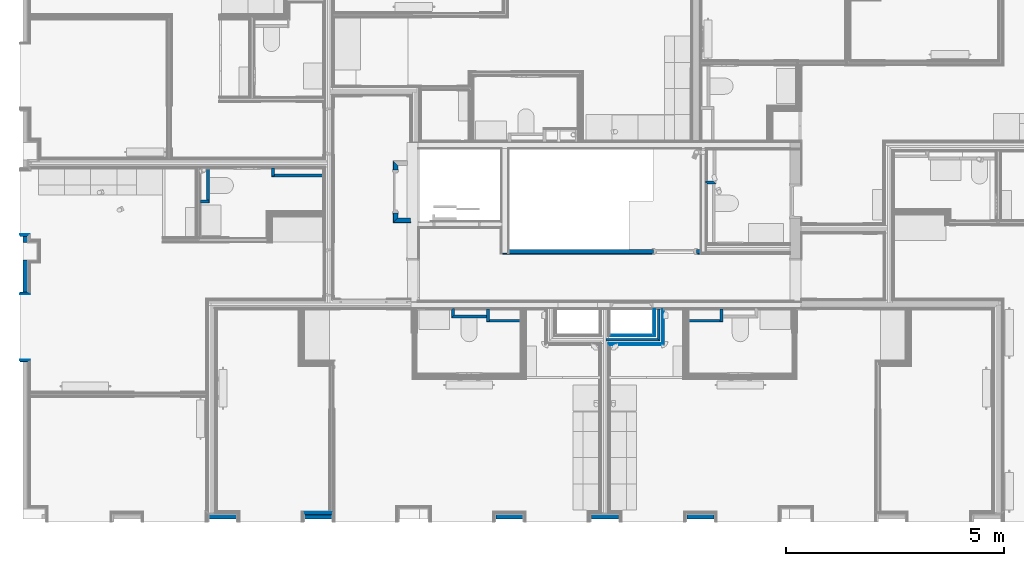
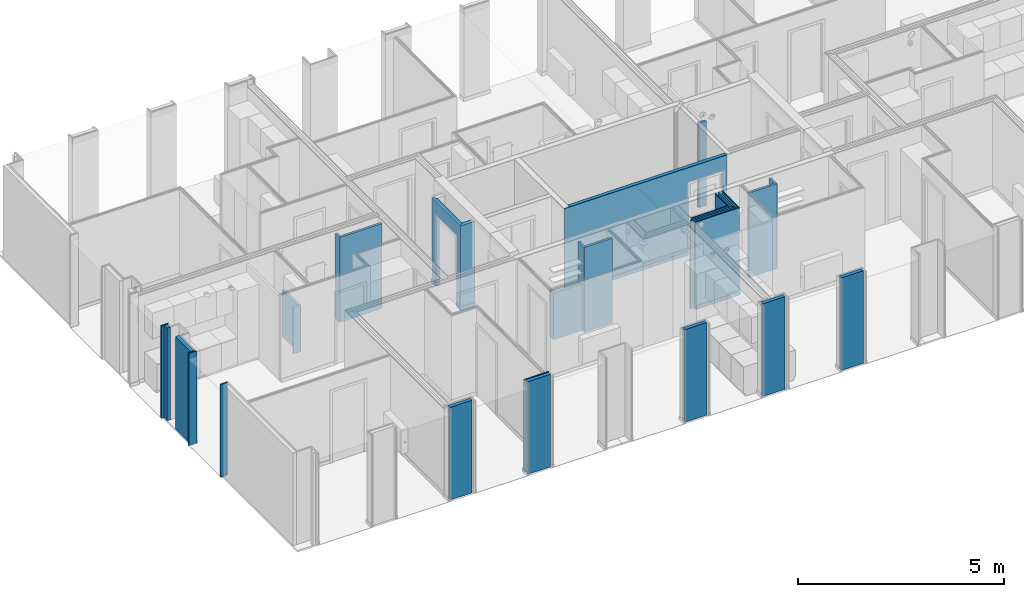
# One storey, part 3 of 82: 40 walls, 2 openings.
"""IFC2X3 building model written with IfcOpenShell, lengths in metres."""

import ifcopenshell
import ifcopenshell.guid

model = None  # the IFC model being written
_history = None  # IfcOwnerHistory: only IFC2X3 demands one
_inside = {}  # id of a spatial element -> (the spatial element, [elements in it])
_under = {}  # id of a project, library or spatial element -> (it, [spatial elements below it])
_declared = {}  # id of a project -> (the project, [libraries it declares])
_typed = {}  # id of a type object -> (the type object, [elements of that type])
_made_of = {}  # id of a material, layer set ... -> (it, [elements and type objects made of it])


def new_model(schema):
    """Start an empty IFC model of exactly this schema.

    Asked for "IFC4X3", IfcOpenShell would pick the latest addendum, in which some entities
    have other attributes; the version numbers below select the first issue.
    IFC2X3 requires an IfcOwnerHistory on every rooted entity: one is made here for all.
    """
    global model, _history
    if schema == "IFC4X3":
        model = ifcopenshell.file(schema_version=(4, 3, 0, 0))
    else:
        model = ifcopenshell.file(schema=schema)
    _inside.clear()
    _under.clear()
    _declared.clear()
    _typed.clear()
    _made_of.clear()
    _history = None
    if model.schema == "IFC2X3":
        org = make("IfcOrganization", Name="unknown")
        user = make(
            "IfcPersonAndOrganization",
            ThePerson=make("IfcPerson", FamilyName="unknown"),
            TheOrganization=org,
        )
        app = make(
            "IfcApplication",
            ApplicationDeveloper=org,
            Version="unknown",
            ApplicationFullName="unknown",
            ApplicationIdentifier="unknown",
        )
        _history = make(
            "IfcOwnerHistory",
            OwningUser=user,
            OwningApplication=app,
            ChangeAction="ADDED",
            CreationDate=0,
        )
    return model


def make(cls, **values):
    """One entity of the class cls with the attributes given. An attribute that is None is left unset."""
    return model.create_entity(
        cls, **{name: value for name, value in values.items() if value is not None}
    )


def entity(cls, *values):
    """Any entity or typed value of the class cls, its attributes in the order of the schema. None: left unset."""
    e = model.create_entity(cls)
    for i, value in enumerate(values):
        if value is not None:
            e[i] = value
    return e


def rooted(cls, **values):
    """An entity with a GlobalId (a new one), such as an element, a storey or a relation."""
    return make(cls, GlobalId=ifcopenshell.guid.new(), OwnerHistory=_history, **values)


def si_unit(unit_type, name, prefix=None):
    """IfcSIUnit, for example si_unit("LENGTHUNIT", "METRE", prefix="MILLI")."""
    return make("IfcSIUnit", UnitType=unit_type, Prefix=prefix, Name=name)


def converted_unit(unit_type, name, factor, base, dimensions=None, offset=None):
    """IfcConversionBasedUnit, such as the inch: factor (a typed value) times the base unit."""
    return make(
        "IfcConversionBasedUnit"
        if offset is None
        else "IfcConversionBasedUnitWithOffset",
        ConversionOffset=offset,
        Dimensions=None
        if dimensions is None
        else entity("IfcDimensionalExponents", *dimensions),
        UnitType=unit_type,
        Name=name,
        ConversionFactor=make(
            "IfcMeasureWithUnit", ValueComponent=factor, UnitComponent=base
        ),
    )


def derived_unit(unit_type, elements):
    """IfcDerivedUnit: a product of units, each with its exponent."""
    return make(
        "IfcDerivedUnit",
        Elements=[
            make("IfcDerivedUnitElement", Unit=unit, Exponent=power)
            for unit, power in elements
        ],
        UnitType=unit_type,
    )


def money_unit(currency):
    """IfcMonetaryUnit."""
    return make("IfcMonetaryUnit", Currency=currency)


def assignment(units):
    """IfcUnitAssignment: the units of a project."""
    return None if units is None else make("IfcUnitAssignment", Units=units)


def point(xyz):
    """IfcCartesianPoint."""
    return None if xyz is None else make("IfcCartesianPoint", Coordinates=xyz)


def direction(xyz):
    """IfcDirection."""
    return None if xyz is None else make("IfcDirection", DirectionRatios=xyz)


def frame(location, z_axis=None, x_axis=None):
    """IfcAxis2Placement3D, a coordinate frame: its origin and axes. An axis left out is left unset."""
    return make(
        "IfcAxis2Placement3D",
        Location=point(location),
        Axis=direction(z_axis),
        RefDirection=direction(x_axis),
    )


def frame_2d(location, x_axis=None):
    """IfcAxis2Placement2D, a coordinate frame in the plane: its origin and x axis."""
    return make(
        "IfcAxis2Placement2D", Location=point(location), RefDirection=direction(x_axis)
    )


def origin_with_axes():
    """The frame at (0, 0, 0) with the z axis (0, 0, 1) and the x axis (1, 0, 0) written out."""
    return frame((0.0, 0.0, 0.0), z_axis=(0.0, 0.0, 1.0), x_axis=(1.0, 0.0, 0.0))


def place(relative_to, where):
    """IfcLocalPlacement: puts the frame where relative to a parent placement (None: the world)."""
    return make(
        "IfcLocalPlacement", PlacementRelTo=relative_to, RelativePlacement=where
    )


def context(
    kind, dimensions, precision=None, world=None, true_north=None, identifier=None
):
    """IfcGeometricRepresentationContext, for example the 3D "Model" context."""
    return make(
        "IfcGeometricRepresentationContext",
        ContextIdentifier=identifier,
        ContextType=kind,
        CoordinateSpaceDimension=dimensions,
        Precision=precision,
        WorldCoordinateSystem=world,
        TrueNorth=true_north,
    )


def subcontext(parent, identifier, kind, view, scale=None):
    """IfcGeometricRepresentationSubContext, for example "Body" below "Model"."""
    return make(
        "IfcGeometricRepresentationSubContext",
        ContextIdentifier=identifier,
        ContextType=kind,
        ParentContext=parent,
        TargetScale=scale,
        TargetView=view,
    )


def project(units=None, contexts=None):
    """IfcProject with its units and contexts."""
    return rooted(
        "IfcProject",
        Name="project",
        RepresentationContexts=contexts,
        UnitsInContext=assignment(units),
    )


def spatial(cls, under=None, at=None, **own):
    """A site, building, storey or space (cls), placed at a placement, below another one or the project."""
    s = rooted(cls, ObjectPlacement=at, **own)
    if under is not None:
        _under.setdefault(under.id(), (under, []))[1].append(s)
    return s


def polyline(points):
    """IfcPolyline through the points."""
    return make("IfcPolyline", Points=[point(p) for p in points])


def profile(cls, at=None, kind="AREA", **sizes):
    """A parametric profile (cls). Its sizes go by their IFC names, for example OverallWidth=200.0."""
    return make(cls, ProfileType=kind, Position=at, **sizes)


def rectangle(**sizes):
    """IfcRectangleProfileDef."""
    return profile("IfcRectangleProfileDef", **sizes)


def outline(outer, holes=None, kind="AREA"):
    """IfcArbitraryClosedProfileDef: a profile drawn as a closed curve; with holes, ...WithVoids."""
    if holes is None:
        return make("IfcArbitraryClosedProfileDef", ProfileType=kind, OuterCurve=outer)
    return make(
        "IfcArbitraryProfileDefWithVoids",
        ProfileType=kind,
        OuterCurve=outer,
        InnerCurves=holes,
    )


def extrude(swept, where, along, depth):
    """IfcExtrudedAreaSolid: the profile swept, set in the frame where, extruded along a direction by depth."""
    return make(
        "IfcExtrudedAreaSolid",
        SweptArea=swept,
        Position=where,
        ExtrudedDirection=direction(along),
        Depth=depth,
    )


def clip(a, b, op="DIFFERENCE"):
    """IfcBooleanClippingResult: the solid a cut by the half space b."""
    return make(
        "IfcBooleanClippingResult", Operator=op, FirstOperand=a, SecondOperand=b
    )


def bounded_halfspace(plane, agree, where, boundary):
    """IfcPolygonalBoundedHalfSpace: a half space limited to a polygon's prism."""
    return make(
        "IfcPolygonalBoundedHalfSpace",
        BaseSurface=make("IfcPlane", Position=plane),
        AgreementFlag=agree,
        Position=where,
        PolygonalBoundary=boundary,
    )


def shape(context_of_items, identifier, shape_type, items):
    """IfcShapeRepresentation: the items that make up one representation, for example the "Body"."""
    return make(
        "IfcShapeRepresentation",
        ContextOfItems=context_of_items,
        RepresentationIdentifier=identifier,
        RepresentationType=shape_type,
        Items=items,
    )


def material(Name=None, Category=None):
    """IfcMaterial."""
    return make("IfcMaterial", Name=Name, Category=Category)


def layer(
    of_material, thickness, ventilated=None, Name=None, Category=None, Priority=None
):
    """IfcMaterialLayer: one layer of a wall or slab, of a material (None: an air gap)."""
    return make(
        "IfcMaterialLayer",
        Material=of_material,
        LayerThickness=thickness,
        IsVentilated=ventilated,
        Name=Name,
        Category=Category,
        Priority=Priority,
    )


def layer_set(layers, Name=None):
    """IfcMaterialLayerSet."""
    return make("IfcMaterialLayerSet", MaterialLayers=layers, LayerSetName=Name)


def layer_usage(for_layer_set, set_direction, sense, offset, extent=None):
    """IfcMaterialLayerSetUsage: how a layer set lies in its element."""
    return make(
        "IfcMaterialLayerSetUsage",
        ForLayerSet=for_layer_set,
        LayerSetDirection=set_direction,
        DirectionSense=sense,
        OffsetFromReferenceLine=offset,
        ReferenceExtent=extent,
    )


def made_of(thing, what):
    """Note that an element or type object is made of a material, layer set ...; save() writes the relation."""
    if what is not None:
        _made_of.setdefault(what.id(), (what, []))[1].append(thing)
    return thing


def type_object(cls, material=None, **own):
    """A type object (cls), such as IfcWallType, which elements share."""
    return made_of(rooted(cls, **own), material)


def element(
    cls,
    number,
    at=None,
    inside=None,
    cuts=None,
    type_object=None,
    material=None,
    context=None,
    identifier="Body",
    shape_type=None,
    held_by="IfcProductDefinitionShape",
    body=None,
    shapes=None,
    **own,
):
    """One element of the class cls, such as IfcWall. Its Tag is "e" and its number.

    at: its placement. inside: the storey or other place that contains it. cuts: it is an
    opening in that element (IfcRelVoidsElement). A single representation is given by context,
    identifier, shape_type and body (its items); several are given by shapes. held_by: the class
    of the entity that holds the representations. save() writes the other relations.
    """
    e = rooted(cls, Tag="e%d" % number, ObjectPlacement=at, **own)
    if body is not None:
        shapes = [shape(context, identifier, shape_type, body)]
    if shapes is not None:
        e.Representation = make(held_by, Representations=shapes)
    if inside is not None:
        _inside.setdefault(inside.id(), (inside, []))[1].append(e)
    if cuts is not None:
        rooted(
            "IfcRelVoidsElement", RelatingBuildingElement=cuts, RelatedOpeningElement=e
        )
    if type_object is not None:
        _typed.setdefault(type_object.id(), (type_object, []))[1].append(e)
    return made_of(e, material)


def aggregate(whole, parts):
    """IfcRelAggregates: a whole, such as a stair, and the parts it consists of."""
    return rooted("IfcRelAggregates", RelatingObject=whole, RelatedObjects=parts)


def save(model, path):
    """Write the relations noted so far, then the file.

    IfcRelAggregates (storeys below a building ...), IfcRelContainedInSpatialStructure (elements
    in a storey), IfcRelDefinesByType, IfcRelAssociatesMaterial and IfcRelDeclares: one each for
    every whole, place, type object, material and project.
    """
    for whole, parts in _under.values():
        aggregate(whole, parts)
    for where, things in _inside.values():
        rooted(
            "IfcRelContainedInSpatialStructure",
            RelatedElements=things,
            RelatingStructure=where,
        )
    for kind, things in _typed.values():
        rooted("IfcRelDefinesByType", RelatedObjects=things, RelatingType=kind)
    for what, things in _made_of.values():
        rooted("IfcRelAssociatesMaterial", RelatedObjects=things, RelatingMaterial=what)
    for by, libraries in _declared.values():
        rooted("IfcRelDeclares", RelatingContext=by, RelatedDefinitions=libraries)
    model.write(path)


model = new_model("IFC2X3")

# Units and contexts
model_context = context("Model", 3, precision=1e-05, world=origin_with_axes(), true_north=direction((0.0, 1.0)))
body_context = subcontext(model_context, "Body", "Model", "MODEL_VIEW", scale=1.0)
ifc_project = project(units=[si_unit("LENGTHUNIT", "METRE"), si_unit("AREAUNIT", "SQUARE_METRE"), si_unit("VOLUMEUNIT", "CUBIC_METRE"), si_unit("ABSORBEDDOSEUNIT", "GRAY"), si_unit("AMOUNTOFSUBSTANCEUNIT", "MOLE"), si_unit("DOSEEQUIVALENTUNIT", "SIEVERT"), si_unit("ELECTRICCAPACITANCEUNIT", "FARAD"), si_unit("ELECTRICCHARGEUNIT", "COULOMB"), si_unit("ELECTRICCONDUCTANCEUNIT", "SIEMENS"), si_unit("ELECTRICCURRENTUNIT", "AMPERE"), si_unit("ELECTRICRESISTANCEUNIT", "OHM"), si_unit("ELECTRICVOLTAGEUNIT", "VOLT"), si_unit("ENERGYUNIT", "JOULE"), si_unit("FORCEUNIT", "NEWTON"), si_unit("FREQUENCYUNIT", "HERTZ"), si_unit("ILLUMINANCEUNIT", "LUX"), si_unit("INDUCTANCEUNIT", "HENRY"), si_unit("LUMINOUSFLUXUNIT", "LUMEN"), si_unit("LUMINOUSINTENSITYUNIT", "CANDELA"), si_unit("MAGNETICFLUXDENSITYUNIT", "TESLA"), si_unit("MAGNETICFLUXUNIT", "WEBER"), si_unit("MASSUNIT", "GRAM"), converted_unit("PLANEANGLEUNIT", "degree", entity("IfcReal", 0.0174532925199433), si_unit("PLANEANGLEUNIT", "RADIAN"), dimensions=[0, 0, 0, 0, 0, 0, 0]), si_unit("POWERUNIT", "WATT"), si_unit("PRESSUREUNIT", "PASCAL"), si_unit("RADIOACTIVITYUNIT", "BECQUEREL"), si_unit("SOLIDANGLEUNIT", "STERADIAN"), si_unit("THERMODYNAMICTEMPERATUREUNIT", "KELVIN"), si_unit("TIMEUNIT", "SECOND"), derived_unit("ACCELERATIONUNIT", [(si_unit("LENGTHUNIT", "METRE"), 1), (si_unit("TIMEUNIT", "SECOND"), -2)]), derived_unit("ANGULARVELOCITYUNIT", [(converted_unit("PLANEANGLEUNIT", "degree", entity("IfcReal", 0.0174532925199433), si_unit("PLANEANGLEUNIT", "RADIAN"), dimensions=[0, 0, 0, 0, 0, 0, 0]), 1), (si_unit("TIMEUNIT", "SECOND"), -1)]), derived_unit("CURVATUREUNIT", [(converted_unit("PLANEANGLEUNIT", "degree", entity("IfcReal", 0.0174532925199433), si_unit("PLANEANGLEUNIT", "RADIAN"), dimensions=[0, 0, 0, 0, 0, 0, 0]), 1), (si_unit("LENGTHUNIT", "METRE"), -1)]), derived_unit("DYNAMICVISCOSITYUNIT", [(si_unit("PRESSUREUNIT", "PASCAL"), 1), (si_unit("TIMEUNIT", "SECOND"), 1)]), derived_unit("HEATFLUXDENSITYUNIT", [(si_unit("POWERUNIT", "WATT"), 1), (si_unit("LENGTHUNIT", "METRE"), -2)]), derived_unit("HEATINGVALUEUNIT", [(si_unit("ENERGYUNIT", "JOULE"), 1), (si_unit("MASSUNIT", "GRAM"), -1)]), derived_unit("INTEGERCOUNTRATEUNIT", [(si_unit("TIMEUNIT", "SECOND"), -1)]), derived_unit("IONCONCENTRATIONUNIT", [(si_unit("MASSUNIT", "GRAM"), 1), (si_unit("VOLUMEUNIT", "CUBIC_METRE"), -1)]), derived_unit("ISOTHERMALMOISTURECAPACITYUNIT", [(si_unit("VOLUMEUNIT", "CUBIC_METRE"), 1), (si_unit("MASSUNIT", "GRAM"), -1)]), derived_unit("KINEMATICVISCOSITYUNIT", [(si_unit("AREAUNIT", "SQUARE_METRE"), 1), (si_unit("TIMEUNIT", "SECOND"), -1)]), derived_unit("LINEARFORCEUNIT", [(si_unit("FORCEUNIT", "NEWTON"), 1), (si_unit("LENGTHUNIT", "METRE"), -1)]), derived_unit("LINEARMOMENTUNIT", [(si_unit("FORCEUNIT", "NEWTON"), 1), (si_unit("LENGTHUNIT", "METRE"), -1)]), derived_unit("LINEARSTIFFNESSUNIT", [(si_unit("FORCEUNIT", "NEWTON"), 1), (si_unit("LENGTHUNIT", "METRE"), -1)]), derived_unit("LINEARVELOCITYUNIT", [(si_unit("LENGTHUNIT", "METRE"), 1), (si_unit("TIMEUNIT", "SECOND"), -1)]), derived_unit("LUMINOUSINTENSITYDISTRIBUTIONUNIT", [(si_unit("LUMINOUSINTENSITYUNIT", "CANDELA"), 1), (si_unit("LUMINOUSFLUXUNIT", "LUMEN"), -1)]), derived_unit("MASSDENSITYUNIT", [(si_unit("MASSUNIT", "GRAM"), 1), (si_unit("VOLUMEUNIT", "CUBIC_METRE"), -1)]), derived_unit("MASSFLOWRATEUNIT", [(si_unit("MASSUNIT", "GRAM"), 1), (si_unit("TIMEUNIT", "SECOND"), -1)]), derived_unit("MASSPERLENGTHUNIT", [(si_unit("MASSUNIT", "GRAM"), 1), (si_unit("LENGTHUNIT", "METRE"), -1)]), derived_unit("MODULUSOFELASTICITYUNIT", [(si_unit("FORCEUNIT", "NEWTON"), 1), (si_unit("AREAUNIT", "SQUARE_METRE"), -1)]), derived_unit("MODULUSOFLINEARSUBGRADEREACTIONUNIT", [(si_unit("FORCEUNIT", "NEWTON"), 1), (si_unit("LENGTHUNIT", "METRE"), -2)]), derived_unit("MODULUSOFROTATIONALSUBGRADEREACTIONUNIT", [(si_unit("FORCEUNIT", "NEWTON"), 1), (si_unit("LENGTHUNIT", "METRE"), 1)]), derived_unit("MODULUSOFSUBGRADEREACTIONUNIT", [(si_unit("FORCEUNIT", "NEWTON"), 1), (si_unit("VOLUMEUNIT", "CUBIC_METRE"), -1)]), derived_unit("MOISTUREDIFFUSIVITYUNIT", [(si_unit("VOLUMEUNIT", "CUBIC_METRE"), 1), (si_unit("TIMEUNIT", "SECOND"), -1)]), derived_unit("MOLECULARWEIGHTUNIT", [(si_unit("MASSUNIT", "GRAM"), 1), (si_unit("AMOUNTOFSUBSTANCEUNIT", "MOLE"), -1)]), derived_unit("PLANARFORCEUNIT", [(si_unit("FORCEUNIT", "NEWTON"), 1), (si_unit("LENGTHUNIT", "METRE"), -2)]), derived_unit("ROTATIONALFREQUENCYUNIT", [(si_unit("TIMEUNIT", "SECOND"), -1)]), derived_unit("ROTATIONALMASSUNIT", [(si_unit("MASSUNIT", "GRAM"), 1), (si_unit("LENGTHUNIT", "METRE"), 2)]), derived_unit("ROTATIONALSTIFFNESSUNIT", [(si_unit("FORCEUNIT", "NEWTON"), 1), (si_unit("LENGTHUNIT", "METRE"), 1), (converted_unit("PLANEANGLEUNIT", "degree", entity("IfcReal", 0.0174532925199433), si_unit("PLANEANGLEUNIT", "RADIAN"), dimensions=[0, 0, 0, 0, 0, 0, 0]), -1)]), derived_unit("SECTIONAREAINTEGRALUNIT", [(si_unit("LENGTHUNIT", "METRE"), 5)]), derived_unit("SECTIONMODULUSUNIT", [(si_unit("LENGTHUNIT", "METRE"), 3)]), derived_unit("SHEARMODULUSUNIT", [(si_unit("FORCEUNIT", "NEWTON"), 1), (si_unit("AREAUNIT", "SQUARE_METRE"), -1)]), derived_unit("SOUNDPOWERUNIT", [(si_unit("ENERGYUNIT", "JOULE"), 1), (si_unit("TIMEUNIT", "SECOND"), -1)]), derived_unit("SPECIFICHEATCAPACITYUNIT", [(si_unit("FORCEUNIT", "NEWTON"), 1), (si_unit("MASSUNIT", "GRAM"), -1), (si_unit("THERMODYNAMICTEMPERATUREUNIT", "KELVIN"), -1)]), derived_unit("TEMPERATUREGRADIENTUNIT", [(si_unit("THERMODYNAMICTEMPERATUREUNIT", "KELVIN"), 1), (si_unit("LENGTHUNIT", "METRE"), -1)]), derived_unit("THERMALADMITTANCEUNIT", [(si_unit("POWERUNIT", "WATT"), 1), (si_unit("AREAUNIT", "SQUARE_METRE"), -1), (si_unit("THERMODYNAMICTEMPERATUREUNIT", "KELVIN"), -1)]), derived_unit("THERMALCONDUCTANCEUNIT", [(si_unit("POWERUNIT", "WATT"), 1), (si_unit("LENGTHUNIT", "METRE"), -1), (si_unit("THERMODYNAMICTEMPERATUREUNIT", "KELVIN"), -1)]), derived_unit("THERMALEXPANSIONCOEFFICIENTUNIT", [(si_unit("THERMODYNAMICTEMPERATUREUNIT", "KELVIN"), -1)]), derived_unit("THERMALRESISTANCEUNIT", [(si_unit("AREAUNIT", "SQUARE_METRE"), 1), (si_unit("POWERUNIT", "WATT"), -1)]), derived_unit("THERMALTRANSMITTANCEUNIT", [(si_unit("POWERUNIT", "WATT"), 1), (si_unit("AREAUNIT", "SQUARE_METRE"), -1), (si_unit("THERMODYNAMICTEMPERATUREUNIT", "KELVIN"), -1)]), derived_unit("TORQUEUNIT", [(si_unit("FORCEUNIT", "NEWTON"), 1), (si_unit("LENGTHUNIT", "METRE"), 1)]), derived_unit("VAPORPERMEABILITYUNIT", [(si_unit("MASSUNIT", "GRAM"), 1), (si_unit("TIMEUNIT", "SECOND"), -1)]), derived_unit("VOLUMETRICFLOWRATEUNIT", [(si_unit("VOLUMEUNIT", "CUBIC_METRE"), 1), (si_unit("TIMEUNIT", "SECOND"), -1)]), derived_unit("WARPINGCONSTANTUNIT", [(si_unit("LENGTHUNIT", "METRE"), 6)]), derived_unit("WARPINGMOMENTUNIT", [(si_unit("FORCEUNIT", "NEWTON"), 1), (si_unit("LENGTHUNIT", "METRE"), 2)]), money_unit("GBP")], contexts=[model_context])

# Site, building, storey
site_placement = place(None, origin_with_axes())
site = spatial("IfcSite", under=ifc_project, at=site_placement, Name="Site", CompositionType="ELEMENT")
building_placement = place(site_placement, origin_with_axes())
building = spatial("IfcBuilding", under=site, at=building_placement, Name="Building01", CompositionType="ELEMENT")
storey_placement = place(building_placement, frame((0.0, 0.0, 12.13), z_axis=(0.0, 0.0, 1.0), x_axis=(1.0, 0.0, 0.0)))
storey = spatial("IfcBuildingStorey", under=building, at=storey_placement, Name="3F", CompositionType="ELEMENT", Elevation=12.13)

# Walls
ifc_material_1 = material(Name="A_BSUK_WallsExternal_Block")
ifc_layer_1 = layer(ifc_material_1, 0.1, ventilated=False)
ifc_layer_set_1 = layer_set([ifc_layer_1])
ifc_layer_usage_1 = layer_usage(ifc_layer_set_1, "AXIS2", "POSITIVE", 0.0)
wall_type_1 = type_object("IfcWallType", Name="A-Walls-ExternalBlock", PredefinedType="NOTDEFINED")
wall_1_placement = place(storey_placement, frame((0.17, 6.64418, 0.0), z_axis=(0.0, 0.0, 1.0), x_axis=(0.0, -1.0, 0.0)))
element("IfcWallStandardCase", 1, at=wall_1_placement, inside=storey, type_object=wall_type_1, material=ifc_layer_usage_1, Name="A-Walls-ExternalBlock", ObjectType="A-Walls-ExternalBlock", context=body_context, shape_type="SweptSolid", body=[
    extrude(rectangle(XDim=0.14418, YDim=0.1, at=frame_2d((0.07209, 0.05), x_axis=(1.0, 0.0))), origin_with_axes(), (0.0, 0.0, 1.0), 2.74),
])
wall_2_placement = place(storey_placement, frame((0.17, 6.1, 0.0), z_axis=(0.0, 0.0, 1.0), x_axis=(0.0, -1.0, 0.0)))
element("IfcWallStandardCase", 2, at=wall_2_placement, inside=storey, type_object=wall_type_1, material=ifc_layer_usage_1, Name="A-Walls-ExternalBlock", ObjectType="A-Walls-ExternalBlock", context=body_context, shape_type="SweptSolid", body=[
    extrude(rectangle(XDim=0.737, YDim=0.1, at=frame_2d((0.3685, 0.05), x_axis=(1.0, 0.0))), origin_with_axes(), (0.0, 0.0, 1.0), 2.74),
])
for number, where, z_axis, x_axis, name in (
    (3, (5.057, 0.27, 0.0), (0.0, 0.0, 1.0), (-1.0, 0.0, 0.0), "A-Walls-ExternalBlock"),
    (4, (7.247, 0.27, 0.0), (0.0, 0.0, 1.0), (-1.0, 0.0, 0.0), "A-Walls-ExternalBlock"),
    (5, (11.627, 0.27, 0.0), (0.0, 0.0, 1.0), (-1.0, 0.0, 0.0), "A-Walls-ExternalBlock"),
    (6, (13.817, 0.27, 0.0), (0.0, 0.0, 1.0), (-1.0, 0.0, 0.0), "A-Walls-ExternalBlock"),
    (7, (16.007, 0.27, 0.0), (0.0, 0.0, 1.0), (-1.0, 0.0, 0.0), "A-Walls-ExternalBlock"),
):
    element("IfcWallStandardCase", number, at=place(storey_placement, frame(where, z_axis=z_axis, x_axis=x_axis)), inside=storey, type_object=wall_type_1, material=ifc_layer_usage_1, Name=name, ObjectType="A-Walls-ExternalBlock", context=body_context, shape_type="SweptSolid", body=[
        extrude(rectangle(XDim=0.624, YDim=0.1, at=frame_2d((0.312, 0.05), x_axis=(-1.0, 0.0))), origin_with_axes(), (0.0, 0.0, 1.0), 2.74),
    ])
ifc_material_2 = material(Name="A_BSUK_Walls_Timber")
ifc_layer_2 = layer(ifc_material_2, 0.015, ventilated=False)
ifc_material_3 = material(Name="A_BSUK_OpeningsClearance")
ifc_layer_3 = layer(ifc_material_3, 0.05, ventilated=False)
ifc_layer_set_2 = layer_set([ifc_layer_2, ifc_layer_3])
ifc_layer_usage_2 = layer_usage(ifc_layer_set_2, "AXIS2", "POSITIVE", 0.0)
wall_type_2 = type_object("IfcWallType", Name="SHE_A-Walls_Type05c_PreWallShell_65mm", PredefinedType="NOTDEFINED")
wall_3_placement = place(storey_placement, frame((15.815, 7.915, 0.0), z_axis=(0.0, 0.0, 1.0), x_axis=(1.0, 0.0, 0.0)))
element("IfcWallStandardCase", 8, at=wall_3_placement, inside=storey, type_object=wall_type_2, material=ifc_layer_usage_2, Name="5C", ObjectType="SHE_A-Walls_Type05c_PreWallShell_65mm", context=body_context, shape_type="SweptSolid", body=[
    extrude(outline(polyline([(0.17, 0.0), (0.0, 0.0), (0.0, -0.05), (0.03, -0.05), (0.03, -0.065), (0.235, -0.065), (0.17, 0.0)])), origin_with_axes(), (0.0, 0.0, 1.0), 2.51),
])
wall_4_placement = place(storey_placement, frame((16.1425, 4.695, 0.0), z_axis=(0.0, 0.0, 1.0), x_axis=(0.0, 1.0, 0.0)))
element("IfcWallStandardCase", 9, at=wall_4_placement, inside=storey, type_object=wall_type_2, material=ifc_layer_usage_2, Name="5C", ObjectType="SHE_A-Walls_Type05c_PreWallShell_65mm", context=body_context, shape_type="SweptSolid", body=[
    extrude(outline(polyline([(0.285, 0.0), (0.0, 0.0), (0.0, -0.05), (-0.015, -0.05), (-0.015, -0.065), (0.285, -0.065), (0.285, 0.0)])), origin_with_axes(), (0.0, 0.0, 1.0), 2.51),
])
wall_5_placement = place(storey_placement, frame((15.4075, 4.745, 0.0), z_axis=(0.0, 0.0, 1.0), x_axis=(1.0, 0.0, 0.0)))
element("IfcWallStandardCase", 10, at=wall_5_placement, inside=storey, type_object=wall_type_2, material=ifc_layer_usage_2, Name="5C", ObjectType="SHE_A-Walls_Type05c_PreWallShell_65mm", context=body_context, shape_type="SweptSolid", body=[
    extrude(outline(polyline([(0.735, -0.05), (0.735, 0.0), (0.0, 0.0), (0.0, -0.065), (0.785, -0.065), (0.785, -0.05), (0.735, -0.05)])), origin_with_axes(), (0.0, 0.0, 1.0), 2.51),
])
wall_6_placement = place(storey_placement, frame((10.057536, 4.845, 0.0), z_axis=(0.0, 0.0, 1.0), x_axis=(0.0, -1.0, 0.0)))
element("IfcWallStandardCase", 11, at=wall_6_placement, inside=storey, type_object=wall_type_2, material=ifc_layer_usage_2, Name="5C", ObjectType="SHE_A-Walls_Type05c_PreWallShell_65mm", context=body_context, shape_type="SweptSolid", body=[
    extrude(outline(polyline([(0.065, -0.065), (0.0, 0.0), (-0.15, 0.0), (-0.15, -0.05), (-0.12, -0.05), (-0.12, -0.065), (0.065, -0.065)])), origin_with_axes(), (0.0, 0.0, 1.0), 1.375),
])
wall_7_placement = place(storey_placement, frame((10.792536, 4.845, 0.0), z_axis=(0.0, 0.0, 1.0), x_axis=(1.0, 0.0, 0.0)))
element("IfcWallStandardCase", 12, at=wall_7_placement, inside=storey, type_object=wall_type_2, material=ifc_layer_usage_2, Name="5C", ObjectType="SHE_A-Walls_Type05c_PreWallShell_65mm", context=body_context, shape_type="SweptSolid", body=[
    extrude(outline(polyline([(0.0, -0.065), (0.0, 0.0), (-0.735, 0.0), (-0.8, -0.065), (0.0, -0.065)])), origin_with_axes(), (0.0, 0.0, 1.0), 1.375),
])
ifc_layer_set_3 = layer_set([ifc_layer_3, ifc_layer_2])
ifc_layer_usage_3 = layer_usage(ifc_layer_set_3, "AXIS2", "POSITIVE", 0.0)
wall_8_placement = place(storey_placement, frame((10.857536, 4.695, 0.0), z_axis=(0.0, 0.0, 1.0), x_axis=(0.0, 1.0, 0.0)))
element("IfcWallStandardCase", 13, at=wall_8_placement, inside=storey, type_object=wall_type_2, material=ifc_layer_usage_3, Name="5C", ObjectType="SHE_A-Walls_Type05c_PreWallShell_65mm", context=body_context, shape_type="SweptSolid", body=[
    extrude(outline(polyline([(0.285, 0.065), (-0.015, 0.065), (-0.015, 0.05), (0.0, 0.05), (0.0, 0.0), (0.285, 0.0), (0.285, 0.065)])), origin_with_axes(), (0.0, 0.0, 1.0), 2.51),
])
wall_9_placement = place(storey_placement, frame((11.592536, 4.745, 0.0), z_axis=(0.0, 0.0, 1.0), x_axis=(-1.0, 0.0, 0.0)))
element("IfcWallStandardCase", 14, at=wall_9_placement, inside=storey, type_object=wall_type_2, material=ifc_layer_usage_3, Name="5C", ObjectType="SHE_A-Walls_Type05c_PreWallShell_65mm", context=body_context, shape_type="SweptSolid", body=[
    extrude(outline(polyline([(0.735, 0.05), (0.785, 0.05), (0.785, 0.065), (0.0, 0.065), (0.0, 0.0), (0.735, 0.0), (0.735, 0.05)])), origin_with_axes(), (0.0, 0.0, 1.0), 2.51),
])
wall_10_placement = place(storey_placement, frame((5.929669, 8.21067, 0.0), z_axis=(0.0, 0.0, 1.0), x_axis=(0.0, -1.0, 0.0)))
element("IfcWallStandardCase", 15, at=wall_10_placement, inside=storey, type_object=wall_type_2, material=ifc_layer_usage_2, Name="5C", ObjectType="SHE_A-Walls_Type05c_PreWallShell_65mm", context=body_context, shape_type="SweptSolid", body=[
    extrude(outline(polyline([(0.185, -0.05), (0.185, 0.0), (0.0, 0.0), (0.0, -0.065), (0.2, -0.065), (0.2, -0.05), (0.185, -0.05)])), origin_with_axes(), (0.0, 0.0, 1.0), 2.51),
])
wall_11_placement = place(storey_placement, frame((5.929669, 8.07567, 0.0), z_axis=(0.0, 0.0, 1.0), x_axis=(1.0, 0.0, 0.0)))
element("IfcWallStandardCase", 16, at=wall_11_placement, inside=storey, type_object=wall_type_2, material=ifc_layer_usage_2, Name="5C", ObjectType="SHE_A-Walls_Type05c_PreWallShell_65mm", context=body_context, shape_type="SweptSolid", body=[
    extrude(outline(polyline([(1.135, 0.0), (0.0, 0.0), (0.0, -0.05), (-0.05, -0.05), (-0.05, -0.065), (1.135, -0.065), (1.135, 0.0)])), origin_with_axes(), (0.0, 0.0, 1.0), 2.51),
])
wall_12_placement = place(storey_placement, frame((4.37573, 8.21067, 0.0), z_axis=(0.0, 0.0, 1.0), x_axis=(0.0, -1.0, 0.0)))
element("IfcWallStandardCase", 17, at=wall_12_placement, inside=storey, type_object=wall_type_2, material=ifc_layer_usage_3, Name="5C", ObjectType="SHE_A-Walls_Type05c_PreWallShell_65mm", context=body_context, shape_type="SweptSolid", body=[
    extrude(outline(polyline([(0.735, 0.05), (0.8, 0.05), (0.8, 0.065), (0.0, 0.065), (0.0, 0.0), (0.735, 0.0), (0.735, 0.05)])), origin_with_axes(), (0.0, 0.0, 1.0), 1.375),
])
wall_13_placement = place(storey_placement, frame((4.42573, 7.47567, 0.0), z_axis=(0.0, 0.0, 1.0), x_axis=(-1.0, 0.0, 0.0)))
element("IfcWallStandardCase", 18, at=wall_13_placement, inside=storey, type_object=wall_type_2, material=ifc_layer_usage_3, Name="5C", ObjectType="SHE_A-Walls_Type05c_PreWallShell_65mm", context=body_context, shape_type="SweptSolid", body=[
    extrude(rectangle(XDim=0.185, YDim=0.065, at=frame_2d((0.0925, 0.0325), x_axis=(-1.0, 0.0))), origin_with_axes(), (0.0, 0.0, 1.0), 1.375),
])
ifc_material_4 = material(Name="A_BSUK_WallInternal_Finishes_Plasterboard")
ifc_layer_4 = layer(ifc_material_4, 0.013, ventilated=False)
ifc_layer_set_4 = layer_set([ifc_layer_4])
ifc_layer_usage_4 = layer_usage(ifc_layer_set_4, "AXIS2", "POSITIVE", 0.0)
wall_type_3 = type_object("IfcWallType", Name="default", PredefinedType="NOTDEFINED")
wall_14_placement = place(storey_placement, frame((0.1, 6.67918, 0.0), z_axis=(0.0, 0.0, 1.0), x_axis=(1.0, 0.0, 0.0)))
element("IfcWallStandardCase", 19, at=wall_14_placement, inside=storey, type_object=wall_type_3, material=ifc_layer_usage_4, Name="default", ObjectType="default", context=body_context, shape_type="SweptSolid", body=[
    extrude(outline(polyline([(0.218, 0.013), (0.0, 0.013), (0.0, 0.0), (0.205, 0.0), (0.218, 0.013)])), origin_with_axes(), (0.0, 0.0, 1.0), 2.74),
])
ifc_material_5 = material(Name="A_BSUK_Insulation")
ifc_layer_5 = layer(ifc_material_5, 0.036, ventilated=False)
ifc_layer_set_5 = layer_set([ifc_layer_5])
ifc_layer_usage_5 = layer_usage(ifc_layer_set_5, "AXIS2", "POSITIVE", 0.0)
wall_15_placement = place(storey_placement, frame((0.1, 6.64418, 0.0), z_axis=(0.0, 0.0, 1.0), x_axis=(1.0, 0.0, 0.0)))
element("IfcWallStandardCase", 20, at=wall_15_placement, inside=storey, type_object=wall_type_3, material=ifc_layer_usage_5, Name="default", ObjectType="default", context=body_context, shape_type="SweptSolid", body=[
    extrude(outline(polyline([(0.206, 0.036), (0.0, 0.036), (0.0, 0.0), (0.17, 0.0), (0.206, 0.036)])), origin_with_axes(), (0.0, 0.0, 1.0), 2.74),
])
wall_16_placement = place(storey_placement, frame((0.305, 5.328, 0.0), z_axis=(0.0, 0.0, 1.0), x_axis=(-1.0, 0.0, 0.0)))
element("IfcWallStandardCase", 21, at=wall_16_placement, inside=storey, type_object=wall_type_3, material=ifc_layer_usage_4, Name="default", ObjectType="default", context=body_context, shape_type="SweptSolid", body=[
    extrude(outline(polyline([(-0.013, 0.013), (0.0, 0.0), (0.205, 0.0), (0.205, 0.013), (-0.013, 0.013)])), origin_with_axes(), (0.0, 0.0, 1.0), 2.74),
])
wall_17_placement = place(storey_placement, frame((0.27, 5.363, 0.0), z_axis=(0.0, 0.0, 1.0), x_axis=(-1.0, 0.0, 0.0)))
element("IfcWallStandardCase", 22, at=wall_17_placement, inside=storey, type_object=wall_type_3, material=ifc_layer_usage_5, Name="default", ObjectType="default", context=body_context, shape_type="SweptSolid", body=[
    extrude(outline(polyline([(-0.036, 0.036), (0.0, 0.0), (0.17, 0.0), (0.17, 0.036), (-0.036, 0.036)])), origin_with_axes(), (0.0, 0.0, 1.0), 2.74),
])
wall_18_placement = place(storey_placement, frame((0.1, 3.80918, 0.0), z_axis=(0.0, 0.0, 1.0), x_axis=(1.0, 0.0, 0.0)))
element("IfcWallStandardCase", 23, at=wall_18_placement, inside=storey, type_object=wall_type_3, material=ifc_layer_usage_4, Name="default", ObjectType="default", context=body_context, shape_type="SweptSolid", body=[
    extrude(outline(polyline([(0.218, 0.013), (0.0, 0.013), (0.0, 0.0), (0.205, 0.0), (0.218, 0.013)])), origin_with_axes(), (0.0, 0.0, 1.0), 2.74),
])
wall_19_placement = place(storey_placement, frame((0.1, 3.77418, 0.0), z_axis=(0.0, 0.0, 1.0), x_axis=(1.0, 0.0, 0.0)))
element("IfcWallStandardCase", 24, at=wall_19_placement, inside=storey, type_object=wall_type_3, material=ifc_layer_usage_5, Name="default", ObjectType="default", context=body_context, shape_type="SweptSolid", body=[
    extrude(outline(polyline([(0.206, 0.036), (0.0, 0.036), (0.0, 0.0), (0.17, 0.0), (0.206, 0.036)])), origin_with_axes(), (0.0, 0.0, 1.0), 2.74),
])
ifc_layer_6 = layer(ifc_material_4, 0.015, ventilated=False)
ifc_layer_set_6 = layer_set([ifc_layer_6])
ifc_layer_usage_6 = layer_usage(ifc_layer_set_6, "AXIS2", "POSITIVE", 0.0)
wall_20_placement = place(storey_placement, frame((14.625, 4.389428, 0.0), z_axis=(0.0, 0.0, 1.0), x_axis=(-1.0, 0.0, 0.0)))
element("IfcWallStandardCase", 25, at=wall_20_placement, inside=storey, type_object=wall_type_3, material=ifc_layer_usage_6, Name="default", ObjectType="default", context=body_context, shape_type="SweptSolid", body=[
    extrude(outline(polyline([(1.0275, 0.015), (-0.015, 0.015), (0.0, 0.0), (1.0275, 0.0), (1.0275, 0.015)])), origin_with_axes(), (0.0, 0.0, 1.0), 2.59),
])
wall_21_placement = place(storey_placement, frame((14.64, 4.374428, 0.0), z_axis=(0.0, 0.0, 1.0), x_axis=(-1.0, 0.0, 0.0)))
element("IfcWallStandardCase", 26, at=wall_21_placement, inside=storey, type_object=wall_type_3, material=ifc_layer_usage_6, Name="default", ObjectType="default", context=body_context, shape_type="SweptSolid", body=[
    extrude(outline(polyline([(1.0425, 0.015), (-0.015, 0.015), (0.0, 0.0), (1.0425, 0.0), (1.0425, 0.015)])), origin_with_axes(), (0.0, 0.0, 1.0), 2.59),
])
ifc_layer_7 = layer(ifc_material_5, 0.05, ventilated=False)
ifc_layer_set_7 = layer_set([ifc_layer_7])
ifc_layer_usage_7 = layer_usage(ifc_layer_set_7, "AXIS2", "POSITIVE", 0.0)
wall_22_placement = place(storey_placement, frame((14.712, 4.302428, 0.0), z_axis=(0.0, 0.0, 1.0), x_axis=(-1.0, 0.0, 0.0)))
element("IfcWallStandardCase", 27, at=wall_22_placement, inside=storey, type_object=wall_type_3, material=ifc_layer_usage_7, Name="default", ObjectType="default", context=body_context, shape_type="SweptSolid", body=[
    extrude(outline(polyline([(1.1865, 0.05), (-0.05, 0.05), (0.0, 0.0), (1.1865, 0.0), (1.1865, 0.05)])), origin_with_axes(), (0.0, 0.0, 1.0), 2.59),
])
for number, where, z_axis, x_axis, name in (
    (28, (14.82, 4.194428, 0.0), (0.0, 0.0, 1.0), (-1.0, 0.0, 0.0), "default"),
    (29, (14.835, 4.179428, 0.0), (0.0, 0.0, 1.0), (-1.0, 0.0, 0.0), "default"),
):
    element("IfcWallStandardCase", number, at=place(storey_placement, frame(where, z_axis=z_axis, x_axis=x_axis)), inside=storey, type_object=wall_type_3, material=ifc_layer_usage_6, Name=name, ObjectType="default", context=body_context, shape_type="SweptSolid", body=[
        extrude(outline(polyline([(1.2225, 0.015), (-0.015, 0.015), (0.0, 0.0), (1.2225, 0.0), (1.2225, 0.015)])), origin_with_axes(), (0.0, 0.0, 1.0), 2.59),
    ])
ifc_layer_set_8 = layer_set([ifc_layer_2])
ifc_layer_usage_8 = layer_usage(ifc_layer_set_8, "AXIS2", "POSITIVE", 0.0)
wall_23_placement = place(storey_placement, frame((14.865, 4.164428, 0.015), z_axis=(0.0, 0.0, 1.0), x_axis=(-1.0, 0.0, 0.0)))
element("IfcWallStandardCase", 30, at=wall_23_placement, inside=storey, type_object=wall_type_3, material=ifc_layer_usage_8, Name="default", ObjectType="default", context=body_context, shape_type="SweptSolid", body=[
    extrude(rectangle(XDim=1.2375, YDim=0.015, at=frame_2d((0.61875, 0.0075), x_axis=(-1.0, 0.0))), origin_with_axes(), (0.0, 0.0, 1.0), 0.1),
])
wall_24_placement = place(storey_placement, frame((14.625, 4.98, 0.0), z_axis=(0.0, 0.0, 1.0), x_axis=(0.0, -1.0, 0.0)))
element("IfcWallStandardCase", 31, at=wall_24_placement, inside=storey, type_object=wall_type_3, material=ifc_layer_usage_6, Name="default", ObjectType="default", context=body_context, shape_type="SweptSolid", body=[
    extrude(outline(polyline([(0.605572, 0.015), (0.0, 0.015), (0.0, 0.0), (0.590572, 0.0), (0.605572, 0.015)])), origin_with_axes(), (0.0, 0.0, 1.0), 2.59),
])
wall_25_placement = place(storey_placement, frame((14.64, 4.98, 0.0), z_axis=(0.0, 0.0, 1.0), x_axis=(0.0, -1.0, 0.0)))
element("IfcWallStandardCase", 32, at=wall_25_placement, inside=storey, type_object=wall_type_3, material=ifc_layer_usage_6, Name="default", ObjectType="default", context=body_context, shape_type="SweptSolid", body=[
    extrude(outline(polyline([(0.620572, 0.015), (0.0, 0.015), (0.0, 0.0), (0.605572, 0.0), (0.620572, 0.015)])), origin_with_axes(), (0.0, 0.0, 1.0), 2.59),
])
wall_26_placement = place(storey_placement, frame((14.712, 4.98, 0.0), z_axis=(0.0, 0.0, 1.0), x_axis=(0.0, -1.0, 0.0)))
element("IfcWallStandardCase", 33, at=wall_26_placement, inside=storey, type_object=wall_type_3, material=ifc_layer_usage_7, Name="default", ObjectType="default", context=body_context, shape_type="SweptSolid", body=[
    extrude(outline(polyline([(0.727572, 0.05), (0.0, 0.05), (0.0, 0.0), (0.677572, 0.0), (0.727572, 0.05)])), origin_with_axes(), (0.0, 0.0, 1.0), 2.59),
])
wall_27_placement = place(storey_placement, frame((14.82, 4.98, 0.0), z_axis=(0.0, 0.0, 1.0), x_axis=(0.0, -1.0, 0.0)))
element("IfcWallStandardCase", 34, at=wall_27_placement, inside=storey, type_object=wall_type_3, material=ifc_layer_usage_6, Name="default", ObjectType="default", context=body_context, shape_type="SweptSolid", body=[
    extrude(outline(polyline([(0.800572, 0.015), (0.0, 0.015), (0.0, 0.0), (0.785572, 0.0), (0.800572, 0.015)])), origin_with_axes(), (0.0, 0.0, 1.0), 2.59),
])
wall_28_placement = place(storey_placement, frame((14.835, 4.98, 0.0), z_axis=(0.0, 0.0, 1.0), x_axis=(0.0, -1.0, 0.0)))
element("IfcWallStandardCase", 35, at=wall_28_placement, inside=storey, type_object=wall_type_3, material=ifc_layer_usage_6, Name="default", ObjectType="default", context=body_context, shape_type="SweptSolid", body=[
    extrude(outline(polyline([(0.815572, 0.015), (0.0, 0.015), (0.0, 0.0), (0.800572, 0.0), (0.815572, 0.015)])), origin_with_axes(), (0.0, 0.0, 1.0), 2.59),
])
wall_29_placement = place(storey_placement, frame((6.588, 0.305, 0.0), z_axis=(0.0, 0.0, 1.0), x_axis=(1.0, 0.0, 0.0)))
element("IfcWallStandardCase", 36, at=wall_29_placement, inside=storey, type_object=wall_type_3, material=ifc_layer_usage_4, Name="default", ObjectType="default", context=body_context, shape_type="SweptSolid", body=[
    extrude(outline(polyline([(0.707, 0.013), (-0.013, 0.013), (0.0, 0.0), (0.694, 0.0), (0.707, 0.013)])), origin_with_axes(), (0.0, 0.0, 1.0), 2.74),
])
wall_30_placement = place(storey_placement, frame((6.623, 0.27, 0.0), z_axis=(0.0, 0.0, 1.0), x_axis=(1.0, 0.0, 0.0)))
element("IfcWallStandardCase", 37, at=wall_30_placement, inside=storey, type_object=wall_type_3, material=ifc_layer_usage_5, Name="default", ObjectType="default", context=body_context, shape_type="SweptSolid", body=[
    extrude(outline(polyline([(0.66, 0.036), (-0.036, 0.036), (0.0, 0.0), (0.624, 0.0), (0.66, 0.036)])), origin_with_axes(), (0.0, 0.0, 1.0), 2.74),
])
ifc_material_6 = material(Name="Air Cavity")
ifc_layer_8 = layer(ifc_material_6, 0.072, ventilated=False)
ifc_layer_set_9 = layer_set([ifc_layer_6, ifc_layer_8, ifc_layer_6, ifc_layer_2])
ifc_layer_usage_9 = layer_usage(ifc_layer_set_9, "AXIS2", "POSITIVE", 0.0)
wall_type_4 = type_object("IfcWallType", Name="SHE_A-Walls_Type04c_RiserWall_102mm_tall", PredefinedType="NOTDEFINED")
wall_31_placement = place(storey_placement, frame((9.06, 6.968405, 0.015), z_axis=(0.0, 0.0, 1.0), x_axis=(-1.0, 0.0, 0.0)))
element("IfcWallStandardCase", 38, at=wall_31_placement, inside=storey, type_object=wall_type_4, material=ifc_layer_usage_9, Name="4C", ObjectType="SHE_A-Walls_Type04c_RiserWall_102mm_tall", context=body_context, shape_type="Clipping", body=[
    clip(clip(extrude(outline(polyline([(0.417, 0.015), (0.0, 0.015), (0.0, -0.015), (0.015, -0.015), (0.015, -0.102), (0.3, -0.102), (0.417, 0.015)])), frame((0.0, 0.0, -0.015), z_axis=(0.0, 0.0, 1.0), x_axis=(1.0, 0.0, 0.0)), (0.0, 0.0, 1.0), 2.51), bounded_halfspace(frame((0.0, 0.0, 0.1), z_axis=(0.0, 0.0, 1.0), x_axis=(1.0, 0.0, 0.0)), False, frame((0.0, 0.0, 0.1), z_axis=(0.0, 0.0, 1.0), x_axis=(1.0, 0.0, 0.0)), polyline([(0.417, 0.015), (0.0, 0.015), (0.0, 0.0), (0.402, 0.0), (0.417, 0.015)]))), bounded_halfspace(frame((0.0, 0.0, 0.0), z_axis=(0.0, 0.0, -1.0), x_axis=(-1.0, 0.0, 0.0)), False, frame((0.0, 0.0, 0.0), z_axis=(0.0, 0.0, -1.0), x_axis=(-1.0, 0.0, 0.0)), polyline([(-0.402, 0.0), (0.0, 0.0), (0.0, 0.015), (-0.417, 0.015), (-0.402, 0.0)]))),
])

# Wall, opening
wall_32_placement = place(storey_placement, frame((8.658, 6.968405, 0.015), z_axis=(0.0, 0.0, 1.0), x_axis=(0.0, 1.0, 0.0)))
wall_32 = element("IfcWallStandardCase", 39, at=wall_32_placement, inside=storey, type_object=wall_type_4, material=ifc_layer_usage_9, Name="4C", ObjectType="SHE_A-Walls_Type04c_RiserWall_102mm_tall", context=body_context, shape_type="Clipping", body=[
    clip(clip(extrude(outline(polyline([(1.389, -0.015), (1.389, 0.0), (1.404, 0.0), (1.419, 0.015), (-0.015, 0.015), (0.102, -0.102), (1.302, -0.102), (1.389, -0.015)])), frame((0.0, 0.0, -0.015), z_axis=(0.0, 0.0, 1.0), x_axis=(1.0, 0.0, 0.0)), (0.0, 0.0, 1.0), 2.51), bounded_halfspace(frame((0.0, 0.0, 0.1), z_axis=(0.0, 0.0, 1.0), x_axis=(1.0, 0.0, 0.0)), False, frame((0.0, 0.0, 0.1), z_axis=(0.0, 0.0, 1.0), x_axis=(1.0, 0.0, 0.0)), polyline([(1.419, 0.015), (-0.015, 0.015), (0.0, 0.0), (1.404, 0.0), (1.419, 0.015)]))), bounded_halfspace(frame((0.0, 0.0, 0.0), z_axis=(0.0, 0.0, -1.0), x_axis=(-1.0, 0.0, 0.0)), False, frame((0.0, 0.0, 0.0), z_axis=(0.0, 0.0, -1.0), x_axis=(-1.0, 0.0, 0.0)), polyline([(-1.404, 0.0), (0.0, 0.0), (0.015, 0.015), (-1.419, 0.015), (-1.404, 0.0)]))),
])
opening_1_placement = place(wall_32_placement, frame((0.21, -0.102, -0.015), z_axis=(0.0, 0.0, 1.0), x_axis=(1.0, 0.0, 0.0)))
element("IfcOpeningElement", 40, at=opening_1_placement, cuts=wall_32, Name="Opening", ObjectType="Opening", context=body_context, shape_type="SweptSolid", body=[
    extrude(rectangle(XDim=0.984, YDim=2.1, at=frame_2d((-0.492, 1.05), x_axis=(1.0, 0.0))), frame((0.0, 0.0, 0.0), z_axis=(0.0, 1.0, 0.0), x_axis=(-1.0, 0.0, 0.0)), (0.0, 0.0, 1.0), 0.117),
])

ifc_layer_9 = layer(ifc_material_4, 0.012, ventilated=False)
ifc_layer_10 = layer(ifc_material_6, 0.05, ventilated=False)
ifc_layer_set_10 = layer_set([ifc_layer_2, ifc_layer_4, ifc_layer_9, ifc_layer_10, ifc_layer_9, ifc_layer_4])
ifc_layer_usage_10 = layer_usage(ifc_layer_set_10, "AXIS2", "POSITIVE", 0.0)
wall_type_5 = type_object("IfcWallType", Name="SHE_A-Walls_Type03c_Firewall_F120_100mm", PredefinedType="NOTDEFINED")
wall_33_placement = place(storey_placement, frame((11.115, 6.25, 0.015), z_axis=(0.0, 0.0, 1.0), x_axis=(1.0, 0.0, 0.0)))
wall_33 = element("IfcWallStandardCase", 41, at=wall_33_placement, inside=storey, type_object=wall_type_5, material=ifc_layer_usage_10, Name="3C", ObjectType="SHE_A-Walls_Type03c_Firewall_F120_100mm", context=body_context, shape_type="Clipping", body=[
    clip(clip(extrude(outline(polyline([(4.585, 0.0), (4.585, 0.1), (0.185, 0.1), (0.185, 0.013), (0.03, 0.013), (0.03, 0.0), (0.0, 0.0), (0.0, -0.015), (4.57, -0.015), (4.585, 0.0)])), frame((0.0, 0.0, -0.015), z_axis=(0.0, 0.0, 1.0), x_axis=(1.0, 0.0, 0.0)), (0.0, 0.0, 1.0), 2.59), bounded_halfspace(frame((0.0, 0.0, 0.1), z_axis=(0.0, 0.0, 1.0), x_axis=(1.0, 0.0, 0.0)), False, frame((0.0, 0.0, 0.1), z_axis=(0.0, 0.0, 1.0), x_axis=(1.0, 0.0, 0.0)), polyline([(4.585, 0.0), (0.0, 0.0), (0.0, -0.015), (4.57, -0.015), (4.585, 0.0)]))), bounded_halfspace(frame((0.0, 0.0, 0.0), z_axis=(0.0, 0.0, -1.0), x_axis=(-1.0, 0.0, 0.0)), False, frame((0.0, 0.0, 0.0), z_axis=(0.0, 0.0, -1.0), x_axis=(-1.0, 0.0, 0.0)), polyline([(-4.57, -0.015), (0.0, -0.015), (0.0, 0.0), (-4.585, 0.0), (-4.57, -0.015)]))),
])
opening_2_placement = place(wall_33_placement, frame((3.501, -0.015, -0.03), z_axis=(0.0, 0.0, 1.0), x_axis=(1.0, 0.0, 0.0)))
element("IfcOpeningElement", 42, at=opening_2_placement, cuts=wall_33, Name="Opening", ObjectType="Opening", context=body_context, shape_type="SweptSolid", body=[
    extrude(rectangle(XDim=2.142, YDim=0.984, at=frame_2d((-0.492, 1.071), x_axis=(0.0, 1.0))), frame((0.0, 0.0, 0.0), z_axis=(0.0, 1.0, 0.0), x_axis=(-1.0, 0.0, 0.0)), (0.0, 0.0, 1.0), 0.115),
    extrude(rectangle(XDim=0.984, YDim=2.157, at=frame_2d((-0.492, 1.0785), x_axis=(1.0, 0.0))), frame((0.0, 0.015, 0.0), z_axis=(0.0, 1.0, 0.0), x_axis=(-1.0, 0.0, 0.0)), (0.0, 0.0, 1.0), 0.013),
    extrude(rectangle(XDim=0.984, YDim=2.157, at=frame_2d((-0.492, 1.0785), x_axis=(1.0, 0.0))), frame((0.0, 0.028, 0.0), z_axis=(0.0, 1.0, 0.0), x_axis=(-1.0, 0.0, 0.0)), (0.0, 0.0, 1.0), 0.012),
    extrude(rectangle(XDim=0.984, YDim=2.157, at=frame_2d((-0.492, 1.0785), x_axis=(1.0, 0.0))), frame((0.0, 0.04, 0.0), z_axis=(0.0, 1.0, 0.0), x_axis=(-1.0, 0.0, 0.0)), (0.0, 0.0, 1.0), 0.05),
    extrude(rectangle(XDim=0.984, YDim=2.157, at=frame_2d((-0.492, 1.0785), x_axis=(1.0, 0.0))), frame((0.0, 0.09, 0.0), z_axis=(0.0, 1.0, 0.0), x_axis=(-1.0, 0.0, 0.0)), (0.0, 0.0, 1.0), 0.012),
    extrude(rectangle(XDim=0.984, YDim=2.157, at=frame_2d((-0.492, 1.0785), x_axis=(1.0, 0.0))), frame((0.0, 0.102, 0.0), z_axis=(0.0, 1.0, 0.0), x_axis=(-1.0, 0.0, 0.0)), (0.0, 0.0, 1.0), 0.013),
])

save(model, "model.ifc")
